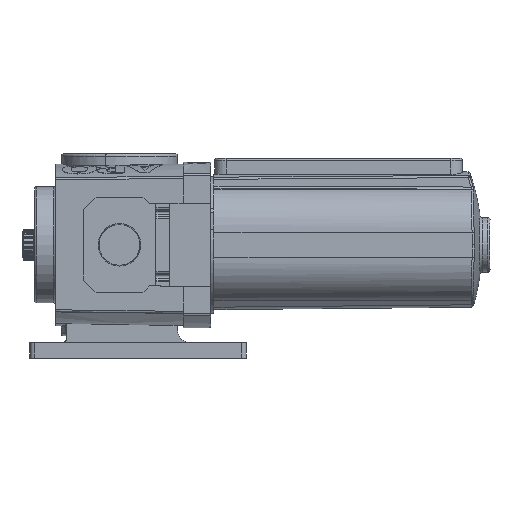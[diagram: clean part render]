
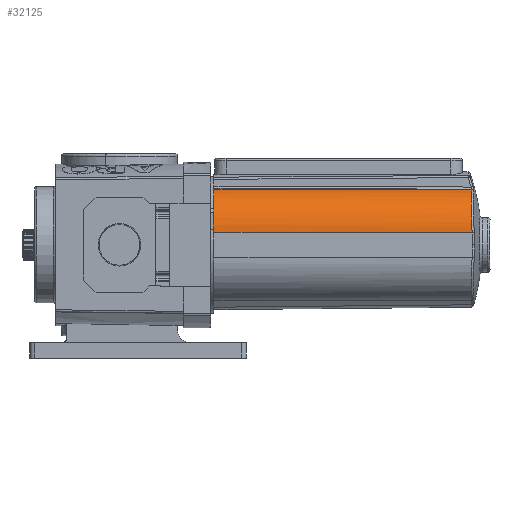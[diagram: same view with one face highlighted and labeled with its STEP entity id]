
A CAD part, left-side view. The second image highlights one B-rep face of the part: STEP entity #32125.
In plain terms, the highlighted cylindrical face has radius 20 mm (diameter 40 mm), a partial arc.
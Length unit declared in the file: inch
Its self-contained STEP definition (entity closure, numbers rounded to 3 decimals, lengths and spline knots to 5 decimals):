
#110=(
BOUNDED_CURVE()
B_SPLINE_CURVE(3,(#134476,#134477,#134478,#134479,#134480,#134481,#134482,
#134483,#134484,#134485,#134486,#134487,#134488,#134489,#134490,#134491,
#134492,#134493,#134494,#134495,#134496,#134497,#134498,#134499,#134500,
#134501,#134502,#134503,#134504,#134505,#134506,#134507,#134508,#134509),
.UNSPECIFIED.,.F.,.F.)
B_SPLINE_CURVE_WITH_KNOTS((4,2,2,2,2,2,2,2,2,2,2,2,2,2,2,2,4),(0.,0.125,
0.25,0.28125,0.3125,0.375,0.5,0.53125,0.54688,0.5625,0.625,0.75,0.78125,
0.79688,0.8125,0.875,1.),.UNSPECIFIED.)
CURVE()
GEOMETRIC_REPRESENTATION_ITEM()
RATIONAL_B_SPLINE_CURVE((1.,1.,1.,1.,1.,1.,1.,1.,1.,1.,1.,1.,1.,1.,1.,1.,
1.,1.,1.,1.,1.,1.,1.,1.,1.,1.,1.,1.,1.,1.,1.,1.,1.,1.))
REPRESENTATION_ITEM('')
);
#32125=ADVANCED_FACE('',(#36696),#34796,.T.);
#34796=CYLINDRICAL_SURFACE('',#97471,0.7874);
#36696=FACE_OUTER_BOUND('',#40658,.T.);
#40658=EDGE_LOOP('',(#53780,#53781,#53782,#53783));
#45378=B_SPLINE_CURVE_WITH_KNOTS('',3,(#134809,#134810,#134811,#134812),
.UNSPECIFIED.,.F.,.F.,(4,4),(0.,1.),.UNSPECIFIED.);
#45379=B_SPLINE_CURVE_WITH_KNOTS('',3,(#134814,#134815,#134816,#134817,#134818,
#134819),.UNSPECIFIED.,.F.,.F.,(4,2,4),(0.,0.5,1.),.UNSPECIFIED.);
#45380=B_SPLINE_CURVE_WITH_KNOTS('',3,(#134821,#134822,#134823,#134824),
.UNSPECIFIED.,.F.,.F.,(4,4),(0.,1.),.UNSPECIFIED.);
#53780=ORIENTED_EDGE('',*,*,#76411,.F.);
#53781=ORIENTED_EDGE('',*,*,#76448,.F.);
#53782=ORIENTED_EDGE('',*,*,#76449,.F.);
#53783=ORIENTED_EDGE('',*,*,#76450,.F.);
#68795=VERTEX_POINT('',#134471);
#68796=VERTEX_POINT('',#134510);
#68812=VERTEX_POINT('',#134808);
#68813=VERTEX_POINT('',#134820);
#76411=EDGE_CURVE('',#68795,#68796,#110,.T.);
#76448=EDGE_CURVE('',#68812,#68795,#45378,.T.);
#76449=EDGE_CURVE('',#68813,#68812,#45379,.T.);
#76450=EDGE_CURVE('',#68796,#68813,#45380,.T.);
#97471=AXIS2_PLACEMENT_3D('',#134825,#107142,#107143);
#107142=DIRECTION('',(-0.021,1.,0.002));
#107143=DIRECTION('',(-1.,-0.021,0.));
#134471=CARTESIAN_POINT('',(-0.46576,-4.51287,0.95413));
#134476=CARTESIAN_POINT('',(-0.46576,-4.51287,0.95413));
#134477=CARTESIAN_POINT('',(-0.50526,-4.51131,0.94126));
#134478=CARTESIAN_POINT('',(-0.54322,-4.51,0.92547));
#134479=CARTESIAN_POINT('',(-0.61621,-4.50783,0.88824));
#134480=CARTESIAN_POINT('',(-0.65124,-4.50699,0.86681));
#134481=CARTESIAN_POINT('',(-0.69313,-4.50623,0.83638));
#134482=CARTESIAN_POINT('',(-0.70142,-4.50609,0.83009));
#134483=CARTESIAN_POINT('',(-0.7177,-4.50585,0.81726));
#134484=CARTESIAN_POINT('',(-0.72569,-4.50575,0.8107));
#134485=CARTESIAN_POINT('',(-0.7492,-4.50549,0.7906));
#134486=CARTESIAN_POINT('',(-0.76428,-4.50538,0.77665));
#134487=CARTESIAN_POINT('',(-0.80776,-4.50523,0.73314));
#134488=CARTESIAN_POINT('',(-0.83442,-4.50538,0.70197));
#134489=CARTESIAN_POINT('',(-0.86477,-4.5059,0.66021));
#134490=CARTESIAN_POINT('',(-0.87068,-4.50601,0.65172));
#134491=CARTESIAN_POINT('',(-0.87934,-4.50622,0.63877));
#134492=CARTESIAN_POINT('',(-0.88218,-4.50629,0.63442));
#134493=CARTESIAN_POINT('',(-0.88777,-4.50644,0.62569));
#134494=CARTESIAN_POINT('',(-0.89052,-4.50652,0.6213));
#134495=CARTESIAN_POINT('',(-0.90401,-4.50693,0.59926));
#134496=CARTESIAN_POINT('',(-0.91406,-4.50733,0.58129));
#134497=CARTESIAN_POINT('',(-0.94198,-4.50868,0.52643));
#134498=CARTESIAN_POINT('',(-0.95767,-4.50983,0.48857));
#134499=CARTESIAN_POINT('',(-0.97357,-4.51155,0.43963));
#134500=CARTESIAN_POINT('',(-0.97657,-4.51191,0.42976));
#134501=CARTESIAN_POINT('',(-0.98078,-4.51247,0.41483));
#134502=CARTESIAN_POINT('',(-0.98213,-4.51266,0.40984));
#134503=CARTESIAN_POINT('',(-0.98475,-4.51306,0.3998));
#134504=CARTESIAN_POINT('',(-0.98601,-4.51325,0.39476));
#134505=CARTESIAN_POINT('',(-0.99205,-4.51427,0.36955));
#134506=CARTESIAN_POINT('',(-0.99607,-4.51513,0.34928));
#134507=CARTESIAN_POINT('',(-1.0057,-4.51786,0.28818));
#134508=CARTESIAN_POINT('',(-1.00892,-4.51989,0.24707));
#134509=CARTESIAN_POINT('',(-1.00887,-4.52212,0.20556));
#134510=CARTESIAN_POINT('',(-1.00887,-4.52212,0.20556));
#134808=CARTESIAN_POINT('',(-0.55906,-0.05906,0.96459));
#134809=CARTESIAN_POINT('',(-0.55906,-0.05906,0.96459));
#134810=CARTESIAN_POINT('',(-0.52796,-1.54366,0.9611));
#134811=CARTESIAN_POINT('',(-0.49686,-3.02827,0.95762));
#134812=CARTESIAN_POINT('',(-0.46576,-4.51287,0.95413));
#134814=CARTESIAN_POINT('',(-1.10236,-0.05906,0.21604));
#134815=CARTESIAN_POINT('',(-1.10235,-0.05906,0.38148));
#134816=CARTESIAN_POINT('',(-1.04917,-0.05906,0.5449));
#134817=CARTESIAN_POINT('',(-0.85528,-0.05906,0.81205));
#134818=CARTESIAN_POINT('',(-0.71632,-0.05906,0.91329));
#134819=CARTESIAN_POINT('',(-0.55906,-0.05906,0.96459));
#134820=CARTESIAN_POINT('',(-1.10236,-0.05906,0.21604));
#134821=CARTESIAN_POINT('',(-1.00887,-4.52212,0.20556));
#134822=CARTESIAN_POINT('',(-1.04004,-3.03443,0.20905));
#134823=CARTESIAN_POINT('',(-1.0712,-1.54674,0.21255));
#134824=CARTESIAN_POINT('',(-1.10236,-0.05906,0.21604));
#134825=CARTESIAN_POINT('',(4946.79361,-236172.54751,-554.28872));
